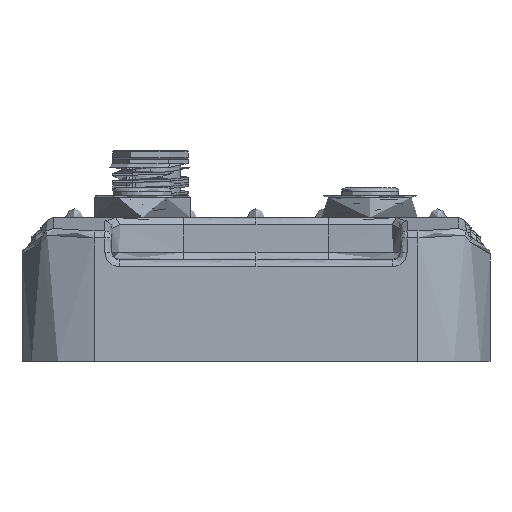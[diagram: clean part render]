
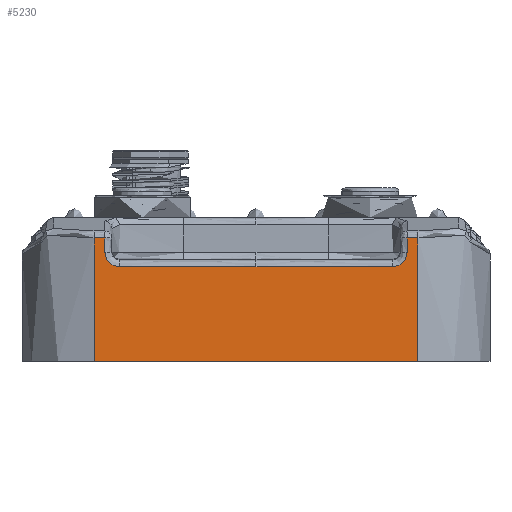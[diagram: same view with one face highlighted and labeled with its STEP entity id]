
A CAD part, front view. The second image highlights one B-rep face of the part: STEP entity #5230.
In plain terms, the highlighted planar face has unit normal (0, -1, 0).
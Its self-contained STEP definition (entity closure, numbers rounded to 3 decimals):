
#2089=B_SPLINE_CURVE_WITH_KNOTS('',3,(#65878,#65879,#65880,#65881),
 .UNSPECIFIED.,.F.,.F.,(4,4),(0.,1.),.UNSPECIFIED.);
#2090=B_SPLINE_CURVE_WITH_KNOTS('',3,(#65883,#65884,#65885,#65886,#65887,
#65888,#65889),.UNSPECIFIED.,.F.,.F.,(4,3,4),(0.,0.575,1.),
 .UNSPECIFIED.);
#2091=B_SPLINE_CURVE_WITH_KNOTS('',3,(#65893,#65894,#65895,#65896,#65897,
#65898,#65899,#65900,#65901,#65902),.UNSPECIFIED.,.F.,.F.,(4,3,3,4),(0.,
0.105,0.526,1.),.UNSPECIFIED.);
#2092=B_SPLINE_CURVE_WITH_KNOTS('',3,(#65904,#65905,#65906,#65907,#65908,
#65909,#65910,#65911,#65912,#65913),.UNSPECIFIED.,.F.,.F.,(4,3,3,4),(0.,
0.105,0.526,1.),.UNSPECIFIED.);
#2093=B_SPLINE_CURVE_WITH_KNOTS('',3,(#65917,#65918,#65919,#65920,#65921,
#65922,#65923),.UNSPECIFIED.,.F.,.F.,(4,3,4),(0.,0.008,1.),
 .UNSPECIFIED.);
#2094=B_SPLINE_CURVE_WITH_KNOTS('',3,(#65925,#65926,#65927,#65928),
 .UNSPECIFIED.,.F.,.F.,(4,4),(0.,1.),.UNSPECIFIED.);
#3719=FACE_OUTER_BOUND('',#7497,.T.);
#5230=ADVANCED_FACE('',(#3719),#6459,.T.);
#6459=PLANE('',#26590);
#7497=EDGE_LOOP('',(#12515,#12516,#12517,#12518,#12519,#12520,#12521,#12522,
#12523,#12524,#12525));
#8842=CIRCLE('',#26588,2.);
#8843=CIRCLE('',#26589,2.);
#12515=ORIENTED_EDGE('',*,*,#21660,.T.);
#12516=ORIENTED_EDGE('',*,*,#21661,.T.);
#12517=ORIENTED_EDGE('',*,*,#21662,.T.);
#12518=ORIENTED_EDGE('',*,*,#21663,.T.);
#12519=ORIENTED_EDGE('',*,*,#21664,.T.);
#12520=ORIENTED_EDGE('',*,*,#21665,.T.);
#12521=ORIENTED_EDGE('',*,*,#21666,.F.);
#12522=ORIENTED_EDGE('',*,*,#21667,.F.);
#12523=ORIENTED_EDGE('',*,*,#21668,.T.);
#12524=ORIENTED_EDGE('',*,*,#21669,.T.);
#12525=ORIENTED_EDGE('',*,*,#20333,.T.);
#17776=VERTEX_POINT('',#34815);
#17777=VERTEX_POINT('',#34816);
#18646=VERTEX_POINT('',#65877);
#18647=VERTEX_POINT('',#65882);
#18648=VERTEX_POINT('',#65890);
#18649=VERTEX_POINT('',#65892);
#18650=VERTEX_POINT('',#65903);
#18651=VERTEX_POINT('',#65914);
#18652=VERTEX_POINT('',#65916);
#18653=VERTEX_POINT('',#65924);
#18654=VERTEX_POINT('',#65929);
#20333=EDGE_CURVE('',#17776,#17777,#24026,.T.);
#21660=EDGE_CURVE('',#17777,#18646,#24327,.T.);
#21661=EDGE_CURVE('',#18646,#18647,#2089,.T.);
#21662=EDGE_CURVE('',#18647,#18648,#2090,.T.);
#21663=EDGE_CURVE('',#18648,#18649,#8842,.T.);
#21664=EDGE_CURVE('',#18649,#18650,#2091,.T.);
#21665=EDGE_CURVE('',#18650,#18651,#2092,.T.);
#21666=EDGE_CURVE('',#18652,#18651,#8843,.T.);
#21667=EDGE_CURVE('',#18653,#18652,#2093,.T.);
#21668=EDGE_CURVE('',#18653,#18654,#2094,.T.);
#21669=EDGE_CURVE('',#18654,#17776,#24328,.T.);
#24026=LINE('',#34814,#25194);
#24327=LINE('',#65876,#25495);
#24328=LINE('',#65930,#25496);
#25194=VECTOR('',#28371,1.);
#25495=VECTOR('',#29158,1.);
#25496=VECTOR('',#29163,1.);
#26588=AXIS2_PLACEMENT_3D('',#65891,#29159,#29160);
#26589=AXIS2_PLACEMENT_3D('',#65915,#29161,#29162);
#26590=AXIS2_PLACEMENT_3D('',#65931,#29164,#29165);
#28371=DIRECTION('',(1.,0.,0.));
#29158=DIRECTION('',(0.,0.,1.));
#29159=DIRECTION('',(0.,1.,0.));
#29160=DIRECTION('',(0.,0.,-1.));
#29161=DIRECTION('',(0.,-1.,0.));
#29162=DIRECTION('',(0.,0.,-1.));
#29163=DIRECTION('',(0.,0.,-1.));
#29164=DIRECTION('',(0.,-1.,0.));
#29165=DIRECTION('',(0.,0.,1.));
#34814=CARTESIAN_POINT('',(73.038,-399.408,5.371));
#34815=CARTESIAN_POINT('',(50.538,-399.408,5.371));
#34816=CARTESIAN_POINT('',(95.538,-399.408,5.371));
#65876=CARTESIAN_POINT('',(95.538,-399.408,21.));
#65877=CARTESIAN_POINT('',(95.538,-399.408,22.526));
#65878=CARTESIAN_POINT('',(95.538,-399.408,22.526));
#65879=CARTESIAN_POINT('',(95.038,-399.408,22.526));
#65880=CARTESIAN_POINT('',(94.538,-399.408,22.526));
#65881=CARTESIAN_POINT('',(94.038,-399.408,22.526));
#65882=CARTESIAN_POINT('',(94.038,-399.408,22.526));
#65883=CARTESIAN_POINT('',(94.038,-399.408,22.526));
#65884=CARTESIAN_POINT('',(94.038,-399.408,22.139));
#65885=CARTESIAN_POINT('',(94.038,-399.408,21.753));
#65886=CARTESIAN_POINT('',(94.038,-399.408,21.367));
#65887=CARTESIAN_POINT('',(94.038,-399.408,21.081));
#65888=CARTESIAN_POINT('',(94.038,-399.408,20.795));
#65889=CARTESIAN_POINT('',(94.038,-399.408,20.51));
#65890=CARTESIAN_POINT('',(94.038,-399.408,20.51));
#65891=CARTESIAN_POINT('',(92.038,-399.408,20.51));
#65892=CARTESIAN_POINT('',(92.038,-399.408,18.51));
#65893=CARTESIAN_POINT('',(92.038,-399.408,18.51));
#65894=CARTESIAN_POINT('',(91.371,-399.408,18.51));
#65895=CARTESIAN_POINT('',(90.705,-399.408,18.51));
#65896=CARTESIAN_POINT('',(90.038,-399.408,18.51));
#65897=CARTESIAN_POINT('',(87.371,-399.408,18.51));
#65898=CARTESIAN_POINT('',(84.705,-399.408,18.51));
#65899=CARTESIAN_POINT('',(82.038,-399.408,18.51));
#65900=CARTESIAN_POINT('',(79.038,-399.408,18.51));
#65901=CARTESIAN_POINT('',(76.038,-399.408,18.51));
#65902=CARTESIAN_POINT('',(73.038,-399.408,18.51));
#65903=CARTESIAN_POINT('',(73.038,-399.408,18.51));
#65904=CARTESIAN_POINT('',(73.038,-399.408,18.51));
#65905=CARTESIAN_POINT('',(72.371,-399.408,18.51));
#65906=CARTESIAN_POINT('',(71.705,-399.408,18.51));
#65907=CARTESIAN_POINT('',(71.038,-399.408,18.51));
#65908=CARTESIAN_POINT('',(68.371,-399.408,18.51));
#65909=CARTESIAN_POINT('',(65.705,-399.408,18.51));
#65910=CARTESIAN_POINT('',(63.038,-399.408,18.51));
#65911=CARTESIAN_POINT('',(60.038,-399.408,18.51));
#65912=CARTESIAN_POINT('',(57.038,-399.408,18.51));
#65913=CARTESIAN_POINT('',(54.038,-399.408,18.51));
#65914=CARTESIAN_POINT('',(54.038,-399.408,18.51));
#65915=CARTESIAN_POINT('',(54.038,-399.408,20.51));
#65916=CARTESIAN_POINT('',(52.038,-399.408,20.51));
#65917=CARTESIAN_POINT('',(52.038,-399.408,22.526));
#65918=CARTESIAN_POINT('',(52.038,-399.408,22.52));
#65919=CARTESIAN_POINT('',(52.038,-399.408,22.515));
#65920=CARTESIAN_POINT('',(52.038,-399.408,22.51));
#65921=CARTESIAN_POINT('',(52.038,-399.408,21.843));
#65922=CARTESIAN_POINT('',(52.038,-399.408,21.176));
#65923=CARTESIAN_POINT('',(52.038,-399.408,20.51));
#65924=CARTESIAN_POINT('',(52.038,-399.408,22.526));
#65925=CARTESIAN_POINT('',(52.038,-399.408,22.526));
#65926=CARTESIAN_POINT('',(51.538,-399.408,22.526));
#65927=CARTESIAN_POINT('',(51.038,-399.408,22.526));
#65928=CARTESIAN_POINT('',(50.538,-399.408,22.526));
#65929=CARTESIAN_POINT('',(50.538,-399.408,22.526));
#65930=CARTESIAN_POINT('',(50.538,-399.408,21.));
#65931=CARTESIAN_POINT('',(73.038,-399.408,21.));
